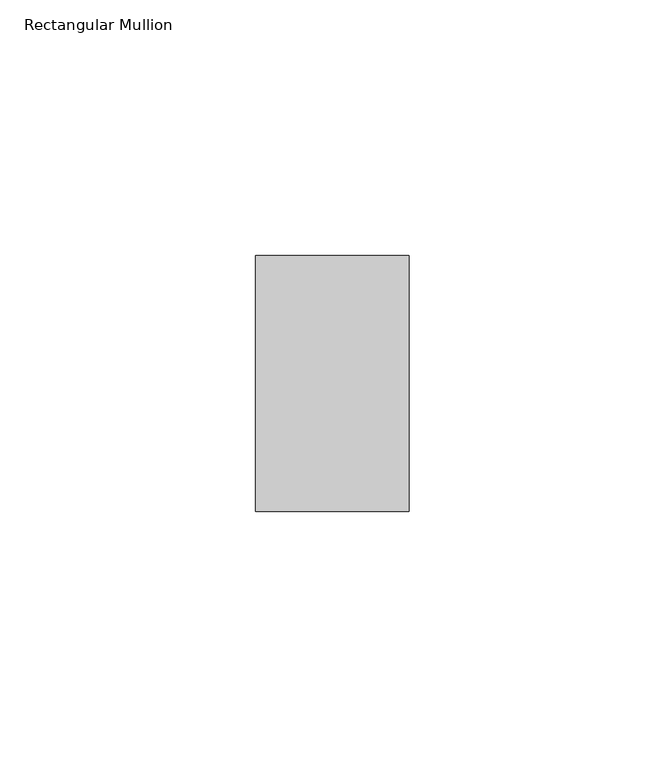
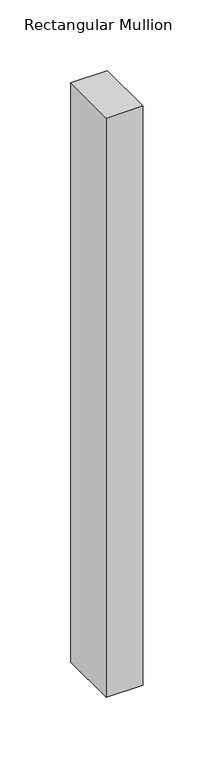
"""IFC4 building model written with IfcOpenShell, lengths in millimetres: member geometry, Rectangular Mullion : ARQ_TV_MULL_50x30mm."""

import ifcopenshell
import ifcopenshell.guid

model = None  # the IFC model being written
_history = None  # IfcOwnerHistory: only IFC2X3 demands one
_inside = {}  # id of a spatial element -> (the spatial element, [elements in it])
_under = {}  # id of a project, library or spatial element -> (it, [spatial elements below it])
_declared = {}  # id of a project -> (the project, [libraries it declares])
_typed = {}  # id of a type object -> (the type object, [elements of that type])
_made_of = {}  # id of a material, layer set ... -> (it, [elements and type objects made of it])


def new_model(schema):
    """Start an empty IFC model of exactly this schema.

    Asked for "IFC4X3", IfcOpenShell would pick the latest addendum, in which some entities
    have other attributes; the version numbers below select the first issue.
    IFC2X3 requires an IfcOwnerHistory on every rooted entity: one is made here for all.
    """
    global model, _history
    if schema == "IFC4X3":
        model = ifcopenshell.file(schema_version=(4, 3, 0, 0))
    else:
        model = ifcopenshell.file(schema=schema)
    _inside.clear()
    _under.clear()
    _declared.clear()
    _typed.clear()
    _made_of.clear()
    _history = None
    if model.schema == "IFC2X3":
        org = make("IfcOrganization", Name="unknown")
        user = make(
            "IfcPersonAndOrganization",
            ThePerson=make("IfcPerson", FamilyName="unknown"),
            TheOrganization=org,
        )
        app = make(
            "IfcApplication",
            ApplicationDeveloper=org,
            Version="unknown",
            ApplicationFullName="unknown",
            ApplicationIdentifier="unknown",
        )
        _history = make(
            "IfcOwnerHistory",
            OwningUser=user,
            OwningApplication=app,
            ChangeAction="ADDED",
            CreationDate=0,
        )
    return model


def make(cls, **values):
    """One entity of the class cls with the attributes given. An attribute that is None is left unset."""
    return model.create_entity(
        cls, **{name: value for name, value in values.items() if value is not None}
    )


def rooted(cls, **values):
    """An entity with a GlobalId (a new one), such as an element, a storey or a relation."""
    return make(cls, GlobalId=ifcopenshell.guid.new(), OwnerHistory=_history, **values)


def si_unit(unit_type, name, prefix=None):
    """IfcSIUnit, for example si_unit("LENGTHUNIT", "METRE", prefix="MILLI")."""
    return make("IfcSIUnit", UnitType=unit_type, Prefix=prefix, Name=name)


def assignment(units):
    """IfcUnitAssignment: the units of a project."""
    return None if units is None else make("IfcUnitAssignment", Units=units)


def point(xyz):
    """IfcCartesianPoint."""
    return None if xyz is None else make("IfcCartesianPoint", Coordinates=xyz)


def direction(xyz):
    """IfcDirection."""
    return None if xyz is None else make("IfcDirection", DirectionRatios=xyz)


def frame(location, z_axis=None, x_axis=None):
    """IfcAxis2Placement3D, a coordinate frame: its origin and axes. An axis left out is left unset."""
    return make(
        "IfcAxis2Placement3D",
        Location=point(location),
        Axis=direction(z_axis),
        RefDirection=direction(x_axis),
    )


def origin():
    """The frame at (0, 0, 0) with its axes left unset."""
    return frame((0.0, 0.0, 0.0))


def place(relative_to, where):
    """IfcLocalPlacement: puts the frame where relative to a parent placement (None: the world)."""
    return make(
        "IfcLocalPlacement", PlacementRelTo=relative_to, RelativePlacement=where
    )


def context(
    kind, dimensions, precision=None, world=None, true_north=None, identifier=None
):
    """IfcGeometricRepresentationContext, for example the 3D "Model" context."""
    return make(
        "IfcGeometricRepresentationContext",
        ContextIdentifier=identifier,
        ContextType=kind,
        CoordinateSpaceDimension=dimensions,
        Precision=precision,
        WorldCoordinateSystem=world,
        TrueNorth=true_north,
    )


def project(units=None, contexts=None):
    """IfcProject with its units and contexts."""
    return rooted(
        "IfcProject",
        Name="project",
        RepresentationContexts=contexts,
        UnitsInContext=assignment(units),
    )


def spatial(cls, under=None, at=None, **own):
    """A site, building, storey or space (cls), placed at a placement, below another one or the project."""
    s = rooted(cls, ObjectPlacement=at, **own)
    if under is not None:
        _under.setdefault(under.id(), (under, []))[1].append(s)
    return s


def polyline(points):
    """IfcPolyline through the points."""
    return make("IfcPolyline", Points=[point(p) for p in points])


def outline(outer, holes=None, kind="AREA"):
    """IfcArbitraryClosedProfileDef: a profile drawn as a closed curve; with holes, ...WithVoids."""
    if holes is None:
        return make("IfcArbitraryClosedProfileDef", ProfileType=kind, OuterCurve=outer)
    return make(
        "IfcArbitraryProfileDefWithVoids",
        ProfileType=kind,
        OuterCurve=outer,
        InnerCurves=holes,
    )


def extrude(swept, where, along, depth):
    """IfcExtrudedAreaSolid: the profile swept, set in the frame where, extruded along a direction by depth."""
    return make(
        "IfcExtrudedAreaSolid",
        SweptArea=swept,
        Position=where,
        ExtrudedDirection=direction(along),
        Depth=depth,
    )


def shape(context_of_items, identifier, shape_type, items):
    """IfcShapeRepresentation: the items that make up one representation, for example the "Body"."""
    return make(
        "IfcShapeRepresentation",
        ContextOfItems=context_of_items,
        RepresentationIdentifier=identifier,
        RepresentationType=shape_type,
        Items=items,
    )


def source(mapping_origin, context_of_items, identifier, shape_type, items):
    """IfcRepresentationMap: a shape defined once, which mapped items show again and again."""
    return make(
        "IfcRepresentationMap",
        MappingOrigin=mapping_origin,
        MappedRepresentation=shape(context_of_items, identifier, shape_type, items),
    )


def transform(
    local_origin,
    x_axis=None,
    y_axis=None,
    z_axis=None,
    scale=None,
    scale2=None,
    scale3=None,
    uniform=True,
):
    """IfcCartesianTransformationOperator3D, or its non-uniform kind. x_axis, y_axis, z_axis: its Axis1, 2, 3."""
    if uniform:
        return make(
            "IfcCartesianTransformationOperator3D",
            Axis1=direction(x_axis),
            Axis2=direction(y_axis),
            LocalOrigin=point(local_origin),
            Scale=scale,
            Axis3=direction(z_axis),
        )
    return make(
        "IfcCartesianTransformationOperator3DnonUniform",
        Axis1=direction(x_axis),
        Axis2=direction(y_axis),
        LocalOrigin=point(local_origin),
        Scale=scale,
        Axis3=direction(z_axis),
        Scale2=scale2,
        Scale3=scale3,
    )


def mapped(mapping_source, mapping_target):
    """IfcMappedItem: shows the shape of a source again, moved by a transform."""
    return make(
        "IfcMappedItem", MappingSource=mapping_source, MappingTarget=mapping_target
    )


def made_of(thing, what):
    """Note that an element or type object is made of a material, layer set ...; save() writes the relation."""
    if what is not None:
        _made_of.setdefault(what.id(), (what, []))[1].append(thing)
    return thing


def element(
    cls,
    number,
    at=None,
    inside=None,
    cuts=None,
    type_object=None,
    material=None,
    context=None,
    identifier="Body",
    shape_type=None,
    held_by="IfcProductDefinitionShape",
    body=None,
    shapes=None,
    **own,
):
    """One element of the class cls, such as IfcWall. Its Tag is "e" and its number.

    at: its placement. inside: the storey or other place that contains it. cuts: it is an
    opening in that element (IfcRelVoidsElement). A single representation is given by context,
    identifier, shape_type and body (its items); several are given by shapes. held_by: the class
    of the entity that holds the representations. save() writes the other relations.
    """
    e = rooted(cls, Tag="e%d" % number, ObjectPlacement=at, **own)
    if body is not None:
        shapes = [shape(context, identifier, shape_type, body)]
    if shapes is not None:
        e.Representation = make(held_by, Representations=shapes)
    if inside is not None:
        _inside.setdefault(inside.id(), (inside, []))[1].append(e)
    if cuts is not None:
        rooted(
            "IfcRelVoidsElement", RelatingBuildingElement=cuts, RelatedOpeningElement=e
        )
    if type_object is not None:
        _typed.setdefault(type_object.id(), (type_object, []))[1].append(e)
    return made_of(e, material)


def aggregate(whole, parts):
    """IfcRelAggregates: a whole, such as a stair, and the parts it consists of."""
    return rooted("IfcRelAggregates", RelatingObject=whole, RelatedObjects=parts)


def save(model, path):
    """Write the relations noted so far, then the file.

    IfcRelAggregates (storeys below a building ...), IfcRelContainedInSpatialStructure (elements
    in a storey), IfcRelDefinesByType, IfcRelAssociatesMaterial and IfcRelDeclares: one each for
    every whole, place, type object, material and project.
    """
    for whole, parts in _under.values():
        aggregate(whole, parts)
    for where, things in _inside.values():
        rooted(
            "IfcRelContainedInSpatialStructure",
            RelatedElements=things,
            RelatingStructure=where,
        )
    for kind, things in _typed.values():
        rooted("IfcRelDefinesByType", RelatedObjects=things, RelatingType=kind)
    for what, things in _made_of.values():
        rooted("IfcRelAssociatesMaterial", RelatedObjects=things, RelatingMaterial=what)
    for by, libraries in _declared.values():
        rooted("IfcRelDeclares", RelatingContext=by, RelatedDefinitions=libraries)
    model.write(path)


def rectangular_mullion_5f2e1c77(model_context):
    return source(origin(), model_context, "Body", "SweptSolid", [
        extrude(outline(polyline([(0.0, 25.0), (0.0, -25.0), (-30.0, -25.0), (-30.0, 25.0), (0.0, 25.0)])), frame((0.0, 0.0, -500.0), z_axis=(0.0, 0.0, 1.0), x_axis=(1.0, 0.0, 0.0)), (0.0, 0.0, 1.0), 500.0),
    ])


if __name__ == "__main__":
    model = new_model("IFC4")
    model_context = context("Model", 3, world=origin())
    ifc_project = project(units=[si_unit("LENGTHUNIT", "METRE", prefix="MILLI")], contexts=[model_context])
    site = spatial("IfcSite", under=ifc_project)
    building = spatial("IfcBuilding", under=site)
    placement = place(None, origin())
    rectangular_mullion_shape = rectangular_mullion_5f2e1c77(model_context)
    element("IfcMember", 1, ObjectType="Rectangular Mullion : ARQ_TV_MULL_50x30mm", at=placement, inside=building, context=model_context, shape_type="MappedRepresentation", body=[
        mapped(rectangular_mullion_shape, transform((0.0, 0.0, 0.0), x_axis=(1.0, 0.0, 0.0), y_axis=(0.0, 1.0, 0.0), z_axis=(0.0, 0.0, 1.0))),
    ])
    save(model, "model.ifc")
